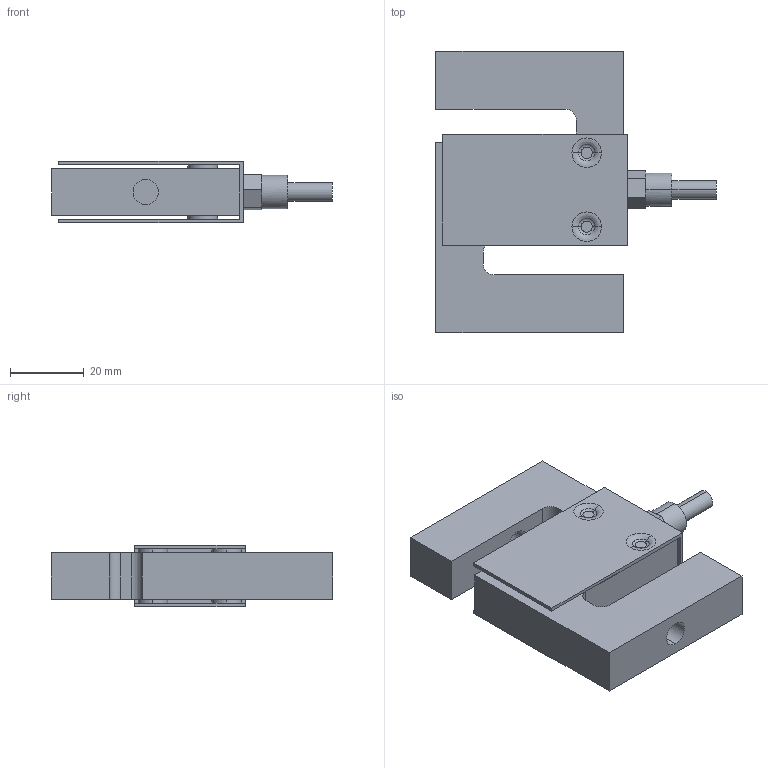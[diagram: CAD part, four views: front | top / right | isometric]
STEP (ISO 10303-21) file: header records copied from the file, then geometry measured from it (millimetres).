
FILE_DESCRIPTION (( 'STEP AP214' ), '1' );
FILE_NAME ('H3 25kg.STEP', '2017-11-28T10:28:49', ( '' ), ( '' ), 'SwSTEP 2.0', 'SolidWorks 2018', '' );
FILE_SCHEMA (( 'AUTOMOTIVE_DESIGN' ));
Length unit declared in the file: millimetre
Products named in the file (1): H3 25kg
Bounding box: 75.8 x 76.2 x 16.71 mm (x, y, z)
Volume: 44025.3 mm3; surface area: 20711.1 mm2
Topology: 5 solids, 5 shells, 93 faces, 212 edges, 136 vertices
Faces by surface type: plane 49, cylinder 28, torus 16
Entity records: 3751 total; most frequent: DIRECTION 500, CARTESIAN_POINT 442, ORIENTED_EDGE 424, EDGE_CURVE 212, AXIS2_PLACEMENT_3D 194, VERTEX_POINT 136, VECTOR 112, LINE 112
